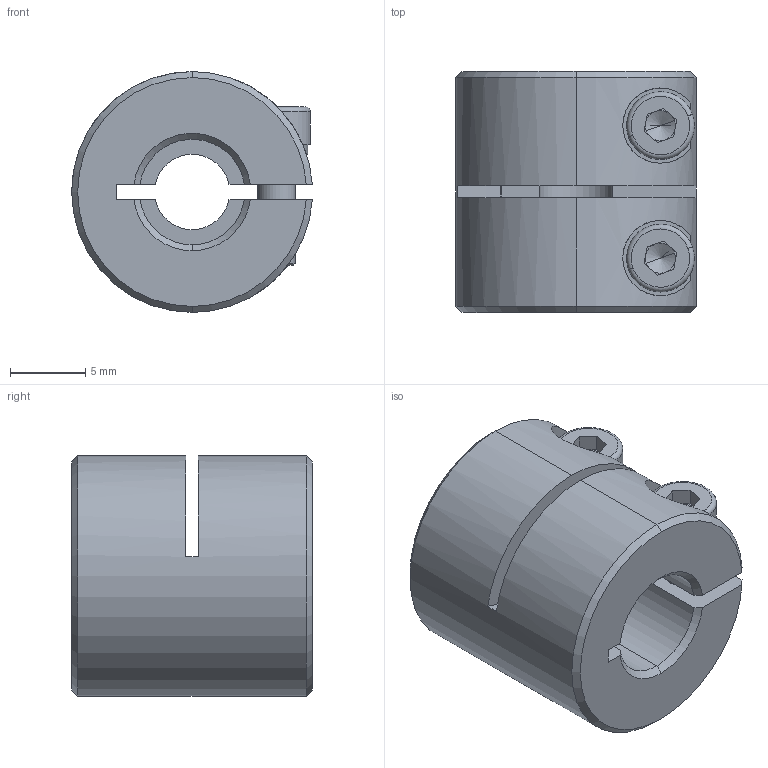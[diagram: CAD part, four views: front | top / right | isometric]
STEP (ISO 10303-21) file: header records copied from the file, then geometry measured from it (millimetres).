
FILE_DESCRIPTION (( 'STEP AP203' ), '1' );
FILE_NAME ('LL-B-D16L16-5-7.STEP', '2021-11-03T02:41:27', ( '' ), ( '' ), 'SwSTEP 2.0', 'SolidWorks 2018', '' );
FILE_SCHEMA (( 'CONFIG_CONTROL_DESIGN' ));
Length unit declared in the file: millimetre
Products named in the file (1): LL-B-D16L16-5-7
Bounding box: 15.98 x 16 x 16 mm (x, y, z)
Volume: 2549.5 mm3; surface area: 2025.3 mm2
Topology: 1 solids, 1 shells, 121 faces, 313 edges, 196 vertices
Faces by surface type: plane 52, cylinder 45, cone 20, torus 4
Entity records: 3948 total; most frequent: CARTESIAN_POINT 879, DIRECTION 653, ORIENTED_EDGE 618, EDGE_CURVE 309, AXIS2_PLACEMENT_3D 254, VERTEX_POINT 196, LINE 145, VECTOR 145
